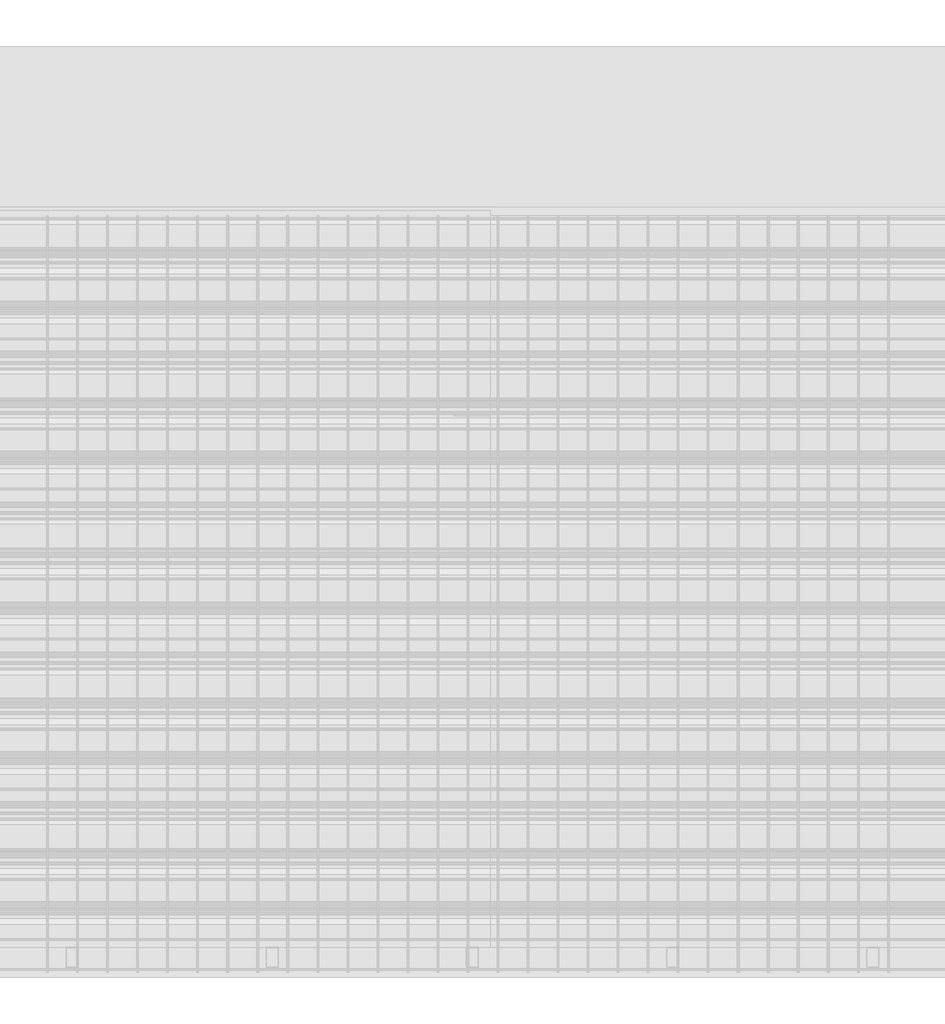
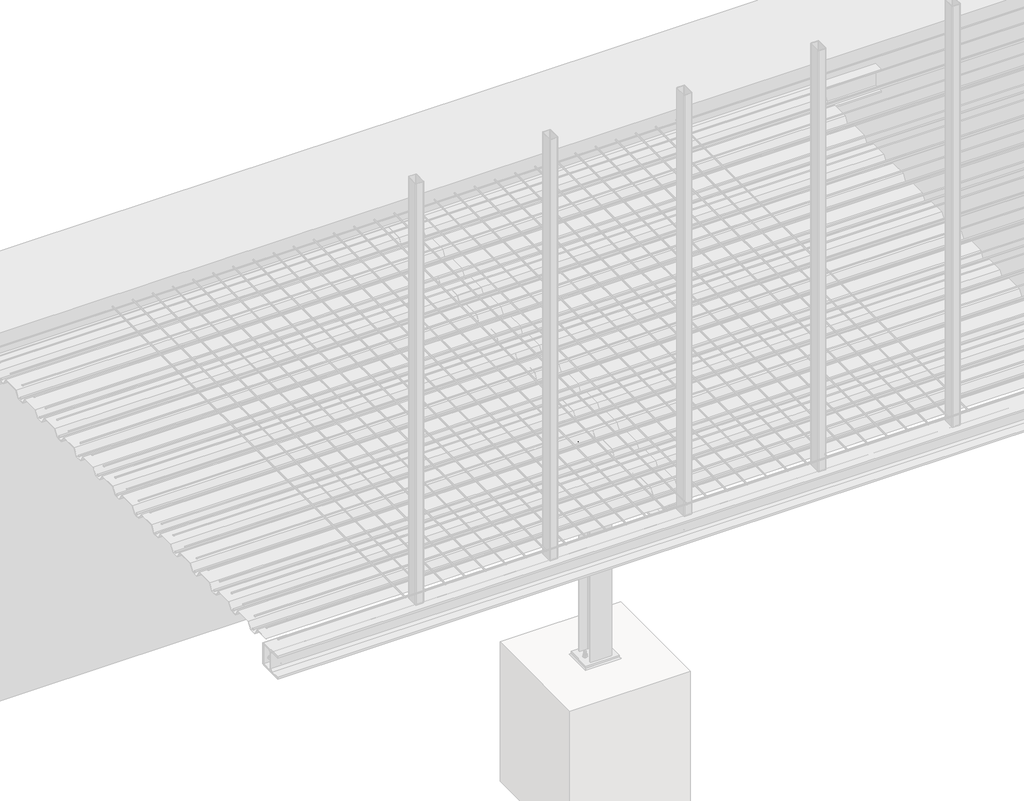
# One storey, part 21 of 36: 1 assembly.
"""IFC4 building model written with IfcOpenShell, lengths in millimetres."""

from ifc_helpers import new_model, si_unit, point, frame, frame_2d, origin, place, context, project, spatial, polyline, circle_curve, trimmed, segment, composite_curve, outline, extrude, element, save

model = new_model("IFC4")

# Units and contexts
model_context = context("Model", 3, world=origin())
ifc_project = project(units=[si_unit("LENGTHUNIT", "METRE", prefix="MILLI")], contexts=[model_context])

# Site, building, storey
site = spatial("IfcSite", under=ifc_project)
building = spatial("IfcBuilding", under=site)
storey = spatial("IfcBuildingStorey", under=building, Name="Základy", Elevation=-1200.0)

# Assembly
placement = place(None, origin())
element("IfcElementAssembly", 1, at=placement, inside=storey, context=model_context, shape_type="SweptSolid", body=[
    extrude(outline(composite_curve([segment(polyline([(-340.0, 3140.0), (-326.0, 3140.0), (-326.0, 3069.25)]), True, "CONTINUOUS"), segment(trimmed(circle_curve(frame_2d((-311.0, 3069.25)), 15.0), [point((-326.0, 3069.25))], [point((-311.0, 3054.25))], True, "CARTESIAN"), True, "CONTINUOUS"), segment(polyline([(-311.0, 3054.25), (-189.0, 3054.25)]), True, "CONTINUOUS"), segment(trimmed(circle_curve(frame_2d((-189.0, 3069.25)), 15.0), [point((-189.0, 3054.25))], [point((-174.0, 3069.25))], True, "CARTESIAN"), True, "CONTINUOUS"), segment(polyline([(-174.0, 3069.25), (-174.0, 3140.0), (-160.0, 3140.0), (-160.0, 2960.0), (-174.0, 2960.0), (-174.0, 3030.75)]), True, "CONTINUOUS"), segment(trimmed(circle_curve(frame_2d((-189.0, 3030.75)), 15.0), [point((-174.0, 3030.75))], [point((-189.0, 3045.75))], True, "CARTESIAN"), True, "CONTINUOUS"), segment(polyline([(-189.0, 3045.75), (-311.0, 3045.75)]), True, "CONTINUOUS"), segment(trimmed(circle_curve(frame_2d((-311.0, 3030.75)), 15.0), [point((-311.0, 3045.75))], [point((-326.0, 3030.75))], True, "CARTESIAN"), True, "CONTINUOUS"), segment(polyline([(-326.0, 3030.75), (-326.0, 2960.0), (-340.0, 2960.0), (-340.0, 3140.0)]), True, "CONTINUOUS")], self_intersect=False)), frame((0.0, 210.0, 0.0), z_axis=(0.0, 1.0, 0.0), x_axis=(0.0, 0.0, 1.0)), (0.0, 0.0, 1.0), 3557.0),
    extrude(outline(polyline([(2950.0, 1200.0), (2950.0, 1320.0), (2960.0, 1320.0), (2960.0, 1200.0), (2950.0, 1200.0)])), frame((0.0, 0.0, -332.0), z_axis=(0.0, 0.0, 1.0), x_axis=(1.0, 0.0, 0.0)), (0.0, 0.0, 1.0), 164.0),
    extrude(outline(composite_curve([segment(polyline([(-174.0, 2960.0), (-326.0, 2960.0), (-326.0, 3020.5)]), True, "CONTINUOUS"), segment(trimmed(circle_curve(frame_2d((-326.0, 3045.5)), 25.0), [point((-326.0, 3020.5))], [point((-301.0, 3045.5))], True, "CARTESIAN"), True, "CONTINUOUS"), segment(polyline([(-301.0, 3045.5), (-199.0, 3045.5)]), True, "CONTINUOUS"), segment(trimmed(circle_curve(frame_2d((-174.0, 3045.5)), 25.0), [point((-199.0, 3045.5))], [point((-174.0, 3020.5))], True, "CARTESIAN"), True, "CONTINUOUS"), segment(polyline([(-174.0, 3020.5), (-174.0, 2960.0)]), True, "CONTINUOUS")], self_intersect=False)), frame((0.0, 1256.0, 0.0), z_axis=(0.0, 1.0, 0.0), x_axis=(0.0, 0.0, 1.0)), (0.0, 0.0, 1.0), 8.0),
    extrude(outline(polyline([(2960.0, 3775.0), (3140.0, 3775.0), (3140.0, 3767.0), (2960.0, 3767.0), (2960.0, 3775.0)])), frame((0.0, 0.0, -316.0), z_axis=(0.0, 0.0, 1.0), x_axis=(1.0, 0.0, 0.0)), (0.0, 0.0, 1.0), 132.0),
    extrude(outline(polyline([(2960.0, 210.0), (3140.0, 210.0), (3140.0, 200.0), (2960.0, 200.0), (2960.0, 210.0)])), frame((0.0, 0.0, -332.0), z_axis=(0.0, 0.0, 1.0), x_axis=(1.0, 0.0, 0.0)), (0.0, 0.0, 1.0), 164.0),
    extrude(outline(polyline([(3140.0, 1200.0), (3140.0, 1320.0), (3150.0, 1320.0), (3150.0, 1200.0), (3140.0, 1200.0)])), frame((0.0, 0.0, -332.0), z_axis=(0.0, 0.0, 1.0), x_axis=(1.0, 0.0, 0.0)), (0.0, 0.0, 1.0), 164.0),
    extrude(outline(composite_curve([segment(polyline([(-174.0, 3140.0), (-174.0, 3079.5)]), True, "CONTINUOUS"), segment(trimmed(circle_curve(frame_2d((-174.0, 3054.5)), 25.0), [point((-174.0, 3079.5))], [point((-199.0, 3054.5))], True, "CARTESIAN"), True, "CONTINUOUS"), segment(polyline([(-199.0, 3054.5), (-301.0, 3054.5)]), True, "CONTINUOUS"), segment(trimmed(circle_curve(frame_2d((-326.0, 3054.5)), 25.0), [point((-301.0, 3054.5))], [point((-326.0, 3079.5))], True, "CARTESIAN"), True, "CONTINUOUS"), segment(polyline([(-326.0, 3079.5), (-326.0, 3140.0), (-174.0, 3140.0)]), True, "CONTINUOUS")], self_intersect=False)), frame((0.0, 1256.0, 0.0), z_axis=(0.0, 1.0, 0.0), x_axis=(0.0, 0.0, 1.0)), (0.0, 0.0, 1.0), 8.0),
    extrude(outline(composite_curve([segment(trimmed(circle_curve(frame_2d((1230.0, -225.0)), 6.5), [point((1230.0, -231.5))], [point((1230.0, -218.5))], False, "CARTESIAN"), True, "CONTINUOUS"), segment(trimmed(circle_curve(frame_2d((1230.0, -225.0)), 6.5), [point((1230.0, -218.5))], [point((1230.0, -231.5))], False, "CARTESIAN"), True, "CONTINUOUS")], self_intersect=False)), frame((2949.9, 0.0, 0.0), z_axis=(1.0, 0.0, 0.0), x_axis=(0.0, 1.0, 0.0)), (0.0, 0.0, 1.0), 10.0),
    extrude(outline(polyline([(1230.0, -235.3923048), (1221.0, -230.1961524), (1221.0, -219.8038476), (1230.0, -214.6076952), (1239.0, -219.8038476), (1239.0, -230.1961524), (1230.0, -235.3923048)])), frame((2962.5, 0.0, 0.0), z_axis=(1.0, 0.0, 0.0), x_axis=(0.0, 1.0, 0.0)), (0.0, 0.0, 1.0), 7.5),
    extrude(outline(composite_curve([segment(trimmed(circle_curve(frame_2d((1230.0, -225.0)), 6.0), [point((1230.0, -231.0))], [point((1230.0, -219.0))], False, "CARTESIAN"), True, "CONTINUOUS"), segment(trimmed(circle_curve(frame_2d((1230.0, -225.0)), 6.0), [point((1230.0, -219.0))], [point((1230.0, -231.0))], False, "CARTESIAN"), True, "CONTINUOUS")], self_intersect=False)), frame((2922.5, 0.0, 0.0), z_axis=(1.0, 0.0, 0.0), x_axis=(0.0, 1.0, 0.0)), (0.0, 0.0, 1.0), 40.0),
    extrude(outline(composite_curve([segment(trimmed(circle_curve(frame_2d((1230.0, -225.0)), 12.0), [point((1230.0, -237.0))], [point((1230.0, -213.0))], False, "CARTESIAN"), True, "CONTINUOUS"), segment(trimmed(circle_curve(frame_2d((1230.0, -225.0)), 12.0), [point((1230.0, -213.0))], [point((1230.0, -237.0))], False, "CARTESIAN"), True, "CONTINUOUS")], self_intersect=False)), frame((2960.0, 0.0, 0.0), z_axis=(1.0, 0.0, 0.0), x_axis=(0.0, 1.0, 0.0)), (0.0, 0.0, 1.0), 2.5),
    extrude(outline(composite_curve([segment(trimmed(circle_curve(frame_2d((1230.0, -225.0)), 12.0), [point((1230.0, -237.0))], [point((1230.0, -213.0))], False, "CARTESIAN"), True, "CONTINUOUS"), segment(trimmed(circle_curve(frame_2d((1230.0, -225.0)), 12.0), [point((1230.0, -213.0))], [point((1230.0, -237.0))], False, "CARTESIAN"), True, "CONTINUOUS")], self_intersect=False)), frame((2937.5, 0.0, 0.0), z_axis=(1.0, 0.0, 0.0), x_axis=(0.0, 1.0, 0.0)), (0.0, 0.0, 1.0), 2.5),
    extrude(outline(polyline([(1230.0, -235.9696551), (1220.5, -230.4848276), (1220.5, -219.5151724), (1230.0, -214.0303449), (1239.5, -219.5151724), (1239.5, -230.4848276), (1230.0, -235.9696551)])), frame((2927.5, 0.0, 0.0), z_axis=(1.0, 0.0, 0.0), x_axis=(0.0, 1.0, 0.0)), (0.0, 0.0, 1.0), 10.0),
    extrude(outline(composite_curve([segment(trimmed(circle_curve(frame_2d((1230.0, -225.0)), 6.5), [point((1230.0, -231.5))], [point((1230.0, -218.5))], False, "CARTESIAN"), True, "CONTINUOUS"), segment(trimmed(circle_curve(frame_2d((1230.0, -225.0)), 6.5), [point((1230.0, -218.5))], [point((1230.0, -231.5))], False, "CARTESIAN"), True, "CONTINUOUS")], self_intersect=False)), frame((2940.0, 0.0, 0.0), z_axis=(1.0, 0.0, 0.0), x_axis=(0.0, 1.0, 0.0)), (0.0, 0.0, 1.0), 10.1),
    extrude(outline(composite_curve([segment(trimmed(circle_curve(frame_2d((1230.0, -275.0)), 6.5), [point((1230.0, -281.5))], [point((1230.0, -268.5))], False, "CARTESIAN"), True, "CONTINUOUS"), segment(trimmed(circle_curve(frame_2d((1230.0, -275.0)), 6.5), [point((1230.0, -268.5))], [point((1230.0, -281.5))], False, "CARTESIAN"), True, "CONTINUOUS")], self_intersect=False)), frame((2949.9, 0.0, 0.0), z_axis=(1.0, 0.0, 0.0), x_axis=(0.0, 1.0, 0.0)), (0.0, 0.0, 1.0), 10.0),
    extrude(outline(polyline([(1230.0, -285.3923048), (1221.0, -280.1961524), (1221.0, -269.8038476), (1230.0, -264.6076952), (1239.0, -269.8038476), (1239.0, -280.1961524), (1230.0, -285.3923048)])), frame((2962.5, 0.0, 0.0), z_axis=(1.0, 0.0, 0.0), x_axis=(0.0, 1.0, 0.0)), (0.0, 0.0, 1.0), 7.5),
    extrude(outline(composite_curve([segment(trimmed(circle_curve(frame_2d((1230.0, -275.0)), 6.0), [point((1230.0, -281.0))], [point((1230.0, -269.0))], False, "CARTESIAN"), True, "CONTINUOUS"), segment(trimmed(circle_curve(frame_2d((1230.0, -275.0)), 6.0), [point((1230.0, -269.0))], [point((1230.0, -281.0))], False, "CARTESIAN"), True, "CONTINUOUS")], self_intersect=False)), frame((2922.5, 0.0, 0.0), z_axis=(1.0, 0.0, 0.0), x_axis=(0.0, 1.0, 0.0)), (0.0, 0.0, 1.0), 40.0),
    extrude(outline(composite_curve([segment(trimmed(circle_curve(frame_2d((1230.0, -275.0)), 12.0), [point((1230.0, -287.0))], [point((1230.0, -263.0))], False, "CARTESIAN"), True, "CONTINUOUS"), segment(trimmed(circle_curve(frame_2d((1230.0, -275.0)), 12.0), [point((1230.0, -263.0))], [point((1230.0, -287.0))], False, "CARTESIAN"), True, "CONTINUOUS")], self_intersect=False)), frame((2960.0, 0.0, 0.0), z_axis=(1.0, 0.0, 0.0), x_axis=(0.0, 1.0, 0.0)), (0.0, 0.0, 1.0), 2.5),
    extrude(outline(composite_curve([segment(trimmed(circle_curve(frame_2d((1230.0, -275.0)), 12.0), [point((1230.0, -287.0))], [point((1230.0, -263.0))], False, "CARTESIAN"), True, "CONTINUOUS"), segment(trimmed(circle_curve(frame_2d((1230.0, -275.0)), 12.0), [point((1230.0, -263.0))], [point((1230.0, -287.0))], False, "CARTESIAN"), True, "CONTINUOUS")], self_intersect=False)), frame((2937.5, 0.0, 0.0), z_axis=(1.0, 0.0, 0.0), x_axis=(0.0, 1.0, 0.0)), (0.0, 0.0, 1.0), 2.5),
    extrude(outline(polyline([(1230.0, -285.9696551), (1220.5, -280.4848276), (1220.5, -269.5151724), (1230.0, -264.0303449), (1239.5, -269.5151724), (1239.5, -280.4848276), (1230.0, -285.9696551)])), frame((2927.5, 0.0, 0.0), z_axis=(1.0, 0.0, 0.0), x_axis=(0.0, 1.0, 0.0)), (0.0, 0.0, 1.0), 10.0),
    extrude(outline(composite_curve([segment(trimmed(circle_curve(frame_2d((1230.0, -275.0)), 6.5), [point((1230.0, -281.5))], [point((1230.0, -268.5))], False, "CARTESIAN"), True, "CONTINUOUS"), segment(trimmed(circle_curve(frame_2d((1230.0, -275.0)), 6.5), [point((1230.0, -268.5))], [point((1230.0, -281.5))], False, "CARTESIAN"), True, "CONTINUOUS")], self_intersect=False)), frame((2940.0, 0.0, 0.0), z_axis=(1.0, 0.0, 0.0), x_axis=(0.0, 1.0, 0.0)), (0.0, 0.0, 1.0), 10.1),
    extrude(outline(composite_curve([segment(trimmed(circle_curve(frame_2d((1290.0, -225.0)), 6.5), [point((1290.0, -231.5))], [point((1290.0, -218.5))], False, "CARTESIAN"), True, "CONTINUOUS"), segment(trimmed(circle_curve(frame_2d((1290.0, -225.0)), 6.5), [point((1290.0, -218.5))], [point((1290.0, -231.5))], False, "CARTESIAN"), True, "CONTINUOUS")], self_intersect=False)), frame((2949.9, 0.0, 0.0), z_axis=(1.0, 0.0, 0.0), x_axis=(0.0, 1.0, 0.0)), (0.0, 0.0, 1.0), 10.0),
    extrude(outline(polyline([(1290.0, -235.3923048), (1281.0, -230.1961524), (1281.0, -219.8038476), (1290.0, -214.6076952), (1299.0, -219.8038476), (1299.0, -230.1961524), (1290.0, -235.3923048)])), frame((2962.5, 0.0, 0.0), z_axis=(1.0, 0.0, 0.0), x_axis=(0.0, 1.0, 0.0)), (0.0, 0.0, 1.0), 7.5),
    extrude(outline(composite_curve([segment(trimmed(circle_curve(frame_2d((1290.0, -225.0)), 6.0), [point((1290.0, -231.0))], [point((1290.0, -219.0))], False, "CARTESIAN"), True, "CONTINUOUS"), segment(trimmed(circle_curve(frame_2d((1290.0, -225.0)), 6.0), [point((1290.0, -219.0))], [point((1290.0, -231.0))], False, "CARTESIAN"), True, "CONTINUOUS")], self_intersect=False)), frame((2922.5, 0.0, 0.0), z_axis=(1.0, 0.0, 0.0), x_axis=(0.0, 1.0, 0.0)), (0.0, 0.0, 1.0), 40.0),
    extrude(outline(composite_curve([segment(trimmed(circle_curve(frame_2d((1290.0, -225.0)), 12.0), [point((1290.0, -237.0))], [point((1290.0, -213.0))], False, "CARTESIAN"), True, "CONTINUOUS"), segment(trimmed(circle_curve(frame_2d((1290.0, -225.0)), 12.0), [point((1290.0, -213.0))], [point((1290.0, -237.0))], False, "CARTESIAN"), True, "CONTINUOUS")], self_intersect=False)), frame((2960.0, 0.0, 0.0), z_axis=(1.0, 0.0, 0.0), x_axis=(0.0, 1.0, 0.0)), (0.0, 0.0, 1.0), 2.5),
    extrude(outline(composite_curve([segment(trimmed(circle_curve(frame_2d((1290.0, -225.0)), 12.0), [point((1290.0, -237.0))], [point((1290.0, -213.0))], False, "CARTESIAN"), True, "CONTINUOUS"), segment(trimmed(circle_curve(frame_2d((1290.0, -225.0)), 12.0), [point((1290.0, -213.0))], [point((1290.0, -237.0))], False, "CARTESIAN"), True, "CONTINUOUS")], self_intersect=False)), frame((2937.5, 0.0, 0.0), z_axis=(1.0, 0.0, 0.0), x_axis=(0.0, 1.0, 0.0)), (0.0, 0.0, 1.0), 2.5),
    extrude(outline(polyline([(1290.0, -235.9696551), (1280.5, -230.4848276), (1280.5, -219.5151724), (1290.0, -214.0303449), (1299.5, -219.5151724), (1299.5, -230.4848276), (1290.0, -235.9696551)])), frame((2927.5, 0.0, 0.0), z_axis=(1.0, 0.0, 0.0), x_axis=(0.0, 1.0, 0.0)), (0.0, 0.0, 1.0), 10.0),
    extrude(outline(composite_curve([segment(trimmed(circle_curve(frame_2d((1290.0, -225.0)), 6.5), [point((1290.0, -231.5))], [point((1290.0, -218.5))], False, "CARTESIAN"), True, "CONTINUOUS"), segment(trimmed(circle_curve(frame_2d((1290.0, -225.0)), 6.5), [point((1290.0, -218.5))], [point((1290.0, -231.5))], False, "CARTESIAN"), True, "CONTINUOUS")], self_intersect=False)), frame((2940.0, 0.0, 0.0), z_axis=(1.0, 0.0, 0.0), x_axis=(0.0, 1.0, 0.0)), (0.0, 0.0, 1.0), 10.1),
    extrude(outline(composite_curve([segment(trimmed(circle_curve(frame_2d((1290.0, -275.0)), 6.5), [point((1290.0, -281.5))], [point((1290.0, -268.5))], False, "CARTESIAN"), True, "CONTINUOUS"), segment(trimmed(circle_curve(frame_2d((1290.0, -275.0)), 6.5), [point((1290.0, -268.5))], [point((1290.0, -281.5))], False, "CARTESIAN"), True, "CONTINUOUS")], self_intersect=False)), frame((2949.9, 0.0, 0.0), z_axis=(1.0, 0.0, 0.0), x_axis=(0.0, 1.0, 0.0)), (0.0, 0.0, 1.0), 10.0),
    extrude(outline(polyline([(1290.0, -285.3923048), (1281.0, -280.1961524), (1281.0, -269.8038476), (1290.0, -264.6076952), (1299.0, -269.8038476), (1299.0, -280.1961524), (1290.0, -285.3923048)])), frame((2962.5, 0.0, 0.0), z_axis=(1.0, 0.0, 0.0), x_axis=(0.0, 1.0, 0.0)), (0.0, 0.0, 1.0), 7.5),
    extrude(outline(composite_curve([segment(trimmed(circle_curve(frame_2d((1290.0, -275.0)), 6.0), [point((1290.0, -281.0))], [point((1290.0, -269.0))], False, "CARTESIAN"), True, "CONTINUOUS"), segment(trimmed(circle_curve(frame_2d((1290.0, -275.0)), 6.0), [point((1290.0, -269.0))], [point((1290.0, -281.0))], False, "CARTESIAN"), True, "CONTINUOUS")], self_intersect=False)), frame((2922.5, 0.0, 0.0), z_axis=(1.0, 0.0, 0.0), x_axis=(0.0, 1.0, 0.0)), (0.0, 0.0, 1.0), 40.0),
    extrude(outline(composite_curve([segment(trimmed(circle_curve(frame_2d((1290.0, -275.0)), 12.0), [point((1290.0, -287.0))], [point((1290.0, -263.0))], False, "CARTESIAN"), True, "CONTINUOUS"), segment(trimmed(circle_curve(frame_2d((1290.0, -275.0)), 12.0), [point((1290.0, -263.0))], [point((1290.0, -287.0))], False, "CARTESIAN"), True, "CONTINUOUS")], self_intersect=False)), frame((2960.0, 0.0, 0.0), z_axis=(1.0, 0.0, 0.0), x_axis=(0.0, 1.0, 0.0)), (0.0, 0.0, 1.0), 2.5),
    extrude(outline(composite_curve([segment(trimmed(circle_curve(frame_2d((1290.0, -275.0)), 12.0), [point((1290.0, -287.0))], [point((1290.0, -263.0))], False, "CARTESIAN"), True, "CONTINUOUS"), segment(trimmed(circle_curve(frame_2d((1290.0, -275.0)), 12.0), [point((1290.0, -263.0))], [point((1290.0, -287.0))], False, "CARTESIAN"), True, "CONTINUOUS")], self_intersect=False)), frame((2937.5, 0.0, 0.0), z_axis=(1.0, 0.0, 0.0), x_axis=(0.0, 1.0, 0.0)), (0.0, 0.0, 1.0), 2.5),
    extrude(outline(polyline([(1290.0, -285.9696551), (1280.5, -280.4848276), (1280.5, -269.5151724), (1290.0, -264.0303449), (1299.5, -269.5151724), (1299.5, -280.4848276), (1290.0, -285.9696551)])), frame((2927.5, 0.0, 0.0), z_axis=(1.0, 0.0, 0.0), x_axis=(0.0, 1.0, 0.0)), (0.0, 0.0, 1.0), 10.0),
    extrude(outline(composite_curve([segment(trimmed(circle_curve(frame_2d((1290.0, -275.0)), 6.5), [point((1290.0, -281.5))], [point((1290.0, -268.5))], False, "CARTESIAN"), True, "CONTINUOUS"), segment(trimmed(circle_curve(frame_2d((1290.0, -275.0)), 6.5), [point((1290.0, -268.5))], [point((1290.0, -281.5))], False, "CARTESIAN"), True, "CONTINUOUS")], self_intersect=False)), frame((2940.0, 0.0, 0.0), z_axis=(1.0, 0.0, 0.0), x_axis=(0.0, 1.0, 0.0)), (0.0, 0.0, 1.0), 10.1),
    extrude(outline(composite_curve([segment(trimmed(circle_curve(frame_2d((1230.0, -225.0)), 6.5), [point((1230.0, -231.5))], [point((1230.0, -218.5))], False, "CARTESIAN"), True, "CONTINUOUS"), segment(trimmed(circle_curve(frame_2d((1230.0, -225.0)), 6.5), [point((1230.0, -218.5))], [point((1230.0, -231.5))], False, "CARTESIAN"), True, "CONTINUOUS")], self_intersect=False)), frame((3140.1, 0.0, 0.0), z_axis=(1.0, 0.0, 0.0), x_axis=(0.0, 1.0, 0.0)), (0.0, 0.0, 1.0), 10.0),
    extrude(outline(polyline([(1230.0, -235.3923048), (1221.0, -230.1961524), (1221.0, -219.8038476), (1230.0, -214.6076952), (1239.0, -219.8038476), (1239.0, -230.1961524), (1230.0, -235.3923048)])), frame((3130.0, 0.0, 0.0), z_axis=(1.0, 0.0, 0.0), x_axis=(0.0, 1.0, 0.0)), (0.0, 0.0, 1.0), 7.5),
    extrude(outline(composite_curve([segment(trimmed(circle_curve(frame_2d((1230.0, -225.0)), 6.0), [point((1230.0, -231.0))], [point((1230.0, -219.0))], False, "CARTESIAN"), True, "CONTINUOUS"), segment(trimmed(circle_curve(frame_2d((1230.0, -225.0)), 6.0), [point((1230.0, -219.0))], [point((1230.0, -231.0))], False, "CARTESIAN"), True, "CONTINUOUS")], self_intersect=False)), frame((3137.5, 0.0, 0.0), z_axis=(1.0, 0.0, 0.0), x_axis=(0.0, 1.0, 0.0)), (0.0, 0.0, 1.0), 40.0),
    extrude(outline(composite_curve([segment(trimmed(circle_curve(frame_2d((1230.0, -225.0)), 12.0), [point((1230.0, -237.0))], [point((1230.0, -213.0))], False, "CARTESIAN"), True, "CONTINUOUS"), segment(trimmed(circle_curve(frame_2d((1230.0, -225.0)), 12.0), [point((1230.0, -213.0))], [point((1230.0, -237.0))], False, "CARTESIAN"), True, "CONTINUOUS")], self_intersect=False)), frame((3137.5, 0.0, 0.0), z_axis=(1.0, 0.0, 0.0), x_axis=(0.0, 1.0, 0.0)), (0.0, 0.0, 1.0), 2.5),
    extrude(outline(composite_curve([segment(trimmed(circle_curve(frame_2d((1230.0, -225.0)), 12.0), [point((1230.0, -237.0))], [point((1230.0, -213.0))], False, "CARTESIAN"), True, "CONTINUOUS"), segment(trimmed(circle_curve(frame_2d((1230.0, -225.0)), 12.0), [point((1230.0, -213.0))], [point((1230.0, -237.0))], False, "CARTESIAN"), True, "CONTINUOUS")], self_intersect=False)), frame((3160.0, 0.0, 0.0), z_axis=(1.0, 0.0, 0.0), x_axis=(0.0, 1.0, 0.0)), (0.0, 0.0, 1.0), 2.5),
    extrude(outline(polyline([(1230.0, -235.9696551), (1220.5, -230.4848276), (1220.5, -219.5151724), (1230.0, -214.0303449), (1239.5, -219.5151724), (1239.5, -230.4848276), (1230.0, -235.9696551)])), frame((3162.5, 0.0, 0.0), z_axis=(1.0, 0.0, 0.0), x_axis=(0.0, 1.0, 0.0)), (0.0, 0.0, 1.0), 10.0),
    extrude(outline(composite_curve([segment(trimmed(circle_curve(frame_2d((1230.0, -225.0)), 6.5), [point((1230.0, -231.5))], [point((1230.0, -218.5))], False, "CARTESIAN"), True, "CONTINUOUS"), segment(trimmed(circle_curve(frame_2d((1230.0, -225.0)), 6.5), [point((1230.0, -218.5))], [point((1230.0, -231.5))], False, "CARTESIAN"), True, "CONTINUOUS")], self_intersect=False)), frame((3149.9, 0.0, 0.0), z_axis=(1.0, 0.0, 0.0), x_axis=(0.0, 1.0, 0.0)), (0.0, 0.0, 1.0), 10.1),
    extrude(outline(composite_curve([segment(trimmed(circle_curve(frame_2d((1230.0, -275.0)), 6.5), [point((1230.0, -281.5))], [point((1230.0, -268.5))], False, "CARTESIAN"), True, "CONTINUOUS"), segment(trimmed(circle_curve(frame_2d((1230.0, -275.0)), 6.5), [point((1230.0, -268.5))], [point((1230.0, -281.5))], False, "CARTESIAN"), True, "CONTINUOUS")], self_intersect=False)), frame((3140.1, 0.0, 0.0), z_axis=(1.0, 0.0, 0.0), x_axis=(0.0, 1.0, 0.0)), (0.0, 0.0, 1.0), 10.0),
    extrude(outline(polyline([(1230.0, -285.3923048), (1221.0, -280.1961524), (1221.0, -269.8038476), (1230.0, -264.6076952), (1239.0, -269.8038476), (1239.0, -280.1961524), (1230.0, -285.3923048)])), frame((3130.0, 0.0, 0.0), z_axis=(1.0, 0.0, 0.0), x_axis=(0.0, 1.0, 0.0)), (0.0, 0.0, 1.0), 7.5),
    extrude(outline(composite_curve([segment(trimmed(circle_curve(frame_2d((1230.0, -275.0)), 6.0), [point((1230.0, -281.0))], [point((1230.0, -269.0))], False, "CARTESIAN"), True, "CONTINUOUS"), segment(trimmed(circle_curve(frame_2d((1230.0, -275.0)), 6.0), [point((1230.0, -269.0))], [point((1230.0, -281.0))], False, "CARTESIAN"), True, "CONTINUOUS")], self_intersect=False)), frame((3137.5, 0.0, 0.0), z_axis=(1.0, 0.0, 0.0), x_axis=(0.0, 1.0, 0.0)), (0.0, 0.0, 1.0), 40.0),
    extrude(outline(composite_curve([segment(trimmed(circle_curve(frame_2d((1230.0, -275.0)), 12.0), [point((1230.0, -287.0))], [point((1230.0, -263.0))], False, "CARTESIAN"), True, "CONTINUOUS"), segment(trimmed(circle_curve(frame_2d((1230.0, -275.0)), 12.0), [point((1230.0, -263.0))], [point((1230.0, -287.0))], False, "CARTESIAN"), True, "CONTINUOUS")], self_intersect=False)), frame((3137.5, 0.0, 0.0), z_axis=(1.0, 0.0, 0.0), x_axis=(0.0, 1.0, 0.0)), (0.0, 0.0, 1.0), 2.5),
    extrude(outline(composite_curve([segment(trimmed(circle_curve(frame_2d((1230.0, -275.0)), 12.0), [point((1230.0, -287.0))], [point((1230.0, -263.0))], False, "CARTESIAN"), True, "CONTINUOUS"), segment(trimmed(circle_curve(frame_2d((1230.0, -275.0)), 12.0), [point((1230.0, -263.0))], [point((1230.0, -287.0))], False, "CARTESIAN"), True, "CONTINUOUS")], self_intersect=False)), frame((3160.0, 0.0, 0.0), z_axis=(1.0, 0.0, 0.0), x_axis=(0.0, 1.0, 0.0)), (0.0, 0.0, 1.0), 2.5),
    extrude(outline(polyline([(1230.0, -285.9696551), (1220.5, -280.4848276), (1220.5, -269.5151724), (1230.0, -264.0303449), (1239.5, -269.5151724), (1239.5, -280.4848276), (1230.0, -285.9696551)])), frame((3162.5, 0.0, 0.0), z_axis=(1.0, 0.0, 0.0), x_axis=(0.0, 1.0, 0.0)), (0.0, 0.0, 1.0), 10.0),
    extrude(outline(composite_curve([segment(trimmed(circle_curve(frame_2d((1230.0, -275.0)), 6.5), [point((1230.0, -281.5))], [point((1230.0, -268.5))], False, "CARTESIAN"), True, "CONTINUOUS"), segment(trimmed(circle_curve(frame_2d((1230.0, -275.0)), 6.5), [point((1230.0, -268.5))], [point((1230.0, -281.5))], False, "CARTESIAN"), True, "CONTINUOUS")], self_intersect=False)), frame((3149.9, 0.0, 0.0), z_axis=(1.0, 0.0, 0.0), x_axis=(0.0, 1.0, 0.0)), (0.0, 0.0, 1.0), 10.1),
    extrude(outline(composite_curve([segment(trimmed(circle_curve(frame_2d((1290.0, -225.0)), 6.5), [point((1290.0, -231.5))], [point((1290.0, -218.5))], False, "CARTESIAN"), True, "CONTINUOUS"), segment(trimmed(circle_curve(frame_2d((1290.0, -225.0)), 6.5), [point((1290.0, -218.5))], [point((1290.0, -231.5))], False, "CARTESIAN"), True, "CONTINUOUS")], self_intersect=False)), frame((3140.1, 0.0, 0.0), z_axis=(1.0, 0.0, 0.0), x_axis=(0.0, 1.0, 0.0)), (0.0, 0.0, 1.0), 10.0),
    extrude(outline(polyline([(1290.0, -235.3923048), (1281.0, -230.1961524), (1281.0, -219.8038476), (1290.0, -214.6076952), (1299.0, -219.8038476), (1299.0, -230.1961524), (1290.0, -235.3923048)])), frame((3130.0, 0.0, 0.0), z_axis=(1.0, 0.0, 0.0), x_axis=(0.0, 1.0, 0.0)), (0.0, 0.0, 1.0), 7.5),
    extrude(outline(composite_curve([segment(trimmed(circle_curve(frame_2d((1290.0, -225.0)), 6.0), [point((1290.0, -231.0))], [point((1290.0, -219.0))], False, "CARTESIAN"), True, "CONTINUOUS"), segment(trimmed(circle_curve(frame_2d((1290.0, -225.0)), 6.0), [point((1290.0, -219.0))], [point((1290.0, -231.0))], False, "CARTESIAN"), True, "CONTINUOUS")], self_intersect=False)), frame((3137.5, 0.0, 0.0), z_axis=(1.0, 0.0, 0.0), x_axis=(0.0, 1.0, 0.0)), (0.0, 0.0, 1.0), 40.0),
    extrude(outline(composite_curve([segment(trimmed(circle_curve(frame_2d((1290.0, -225.0)), 12.0), [point((1290.0, -237.0))], [point((1290.0, -213.0))], False, "CARTESIAN"), True, "CONTINUOUS"), segment(trimmed(circle_curve(frame_2d((1290.0, -225.0)), 12.0), [point((1290.0, -213.0))], [point((1290.0, -237.0))], False, "CARTESIAN"), True, "CONTINUOUS")], self_intersect=False)), frame((3137.5, 0.0, 0.0), z_axis=(1.0, 0.0, 0.0), x_axis=(0.0, 1.0, 0.0)), (0.0, 0.0, 1.0), 2.5),
    extrude(outline(composite_curve([segment(trimmed(circle_curve(frame_2d((1290.0, -225.0)), 12.0), [point((1290.0, -237.0))], [point((1290.0, -213.0))], False, "CARTESIAN"), True, "CONTINUOUS"), segment(trimmed(circle_curve(frame_2d((1290.0, -225.0)), 12.0), [point((1290.0, -213.0))], [point((1290.0, -237.0))], False, "CARTESIAN"), True, "CONTINUOUS")], self_intersect=False)), frame((3160.0, 0.0, 0.0), z_axis=(1.0, 0.0, 0.0), x_axis=(0.0, 1.0, 0.0)), (0.0, 0.0, 1.0), 2.5),
    extrude(outline(polyline([(1290.0, -235.9696551), (1280.5, -230.4848276), (1280.5, -219.5151724), (1290.0, -214.0303449), (1299.5, -219.5151724), (1299.5, -230.4848276), (1290.0, -235.9696551)])), frame((3162.5, 0.0, 0.0), z_axis=(1.0, 0.0, 0.0), x_axis=(0.0, 1.0, 0.0)), (0.0, 0.0, 1.0), 10.0),
    extrude(outline(composite_curve([segment(trimmed(circle_curve(frame_2d((1290.0, -225.0)), 6.5), [point((1290.0, -231.5))], [point((1290.0, -218.5))], False, "CARTESIAN"), True, "CONTINUOUS"), segment(trimmed(circle_curve(frame_2d((1290.0, -225.0)), 6.5), [point((1290.0, -218.5))], [point((1290.0, -231.5))], False, "CARTESIAN"), True, "CONTINUOUS")], self_intersect=False)), frame((3149.9, 0.0, 0.0), z_axis=(1.0, 0.0, 0.0), x_axis=(0.0, 1.0, 0.0)), (0.0, 0.0, 1.0), 10.1),
    extrude(outline(composite_curve([segment(trimmed(circle_curve(frame_2d((1290.0, -275.0)), 6.5), [point((1290.0, -281.5))], [point((1290.0, -268.5))], False, "CARTESIAN"), True, "CONTINUOUS"), segment(trimmed(circle_curve(frame_2d((1290.0, -275.0)), 6.5), [point((1290.0, -268.5))], [point((1290.0, -281.5))], False, "CARTESIAN"), True, "CONTINUOUS")], self_intersect=False)), frame((3140.1, 0.0, 0.0), z_axis=(1.0, 0.0, 0.0), x_axis=(0.0, 1.0, 0.0)), (0.0, 0.0, 1.0), 10.0),
    extrude(outline(polyline([(1290.0, -285.3923048), (1281.0, -280.1961524), (1281.0, -269.8038476), (1290.0, -264.6076952), (1299.0, -269.8038476), (1299.0, -280.1961524), (1290.0, -285.3923048)])), frame((3130.0, 0.0, 0.0), z_axis=(1.0, 0.0, 0.0), x_axis=(0.0, 1.0, 0.0)), (0.0, 0.0, 1.0), 7.5),
    extrude(outline(composite_curve([segment(trimmed(circle_curve(frame_2d((1290.0, -275.0)), 6.0), [point((1290.0, -281.0))], [point((1290.0, -269.0))], False, "CARTESIAN"), True, "CONTINUOUS"), segment(trimmed(circle_curve(frame_2d((1290.0, -275.0)), 6.0), [point((1290.0, -269.0))], [point((1290.0, -281.0))], False, "CARTESIAN"), True, "CONTINUOUS")], self_intersect=False)), frame((3137.5, 0.0, 0.0), z_axis=(1.0, 0.0, 0.0), x_axis=(0.0, 1.0, 0.0)), (0.0, 0.0, 1.0), 40.0),
    extrude(outline(composite_curve([segment(trimmed(circle_curve(frame_2d((1290.0, -275.0)), 12.0), [point((1290.0, -287.0))], [point((1290.0, -263.0))], False, "CARTESIAN"), True, "CONTINUOUS"), segment(trimmed(circle_curve(frame_2d((1290.0, -275.0)), 12.0), [point((1290.0, -263.0))], [point((1290.0, -287.0))], False, "CARTESIAN"), True, "CONTINUOUS")], self_intersect=False)), frame((3137.5, 0.0, 0.0), z_axis=(1.0, 0.0, 0.0), x_axis=(0.0, 1.0, 0.0)), (0.0, 0.0, 1.0), 2.5),
    extrude(outline(composite_curve([segment(trimmed(circle_curve(frame_2d((1290.0, -275.0)), 12.0), [point((1290.0, -287.0))], [point((1290.0, -263.0))], False, "CARTESIAN"), True, "CONTINUOUS"), segment(trimmed(circle_curve(frame_2d((1290.0, -275.0)), 12.0), [point((1290.0, -263.0))], [point((1290.0, -287.0))], False, "CARTESIAN"), True, "CONTINUOUS")], self_intersect=False)), frame((3160.0, 0.0, 0.0), z_axis=(1.0, 0.0, 0.0), x_axis=(0.0, 1.0, 0.0)), (0.0, 0.0, 1.0), 2.5),
    extrude(outline(polyline([(1290.0, -285.9696551), (1280.5, -280.4848276), (1280.5, -269.5151724), (1290.0, -264.0303449), (1299.5, -269.5151724), (1299.5, -280.4848276), (1290.0, -285.9696551)])), frame((3162.5, 0.0, 0.0), z_axis=(1.0, 0.0, 0.0), x_axis=(0.0, 1.0, 0.0)), (0.0, 0.0, 1.0), 10.0),
    extrude(outline(composite_curve([segment(trimmed(circle_curve(frame_2d((1290.0, -275.0)), 6.5), [point((1290.0, -281.5))], [point((1290.0, -268.5))], False, "CARTESIAN"), True, "CONTINUOUS"), segment(trimmed(circle_curve(frame_2d((1290.0, -275.0)), 6.5), [point((1290.0, -268.5))], [point((1290.0, -281.5))], False, "CARTESIAN"), True, "CONTINUOUS")], self_intersect=False)), frame((3149.9, 0.0, 0.0), z_axis=(1.0, 0.0, 0.0), x_axis=(0.0, 1.0, 0.0)), (0.0, 0.0, 1.0), 10.1),
])

save(model, "model.ifc")
